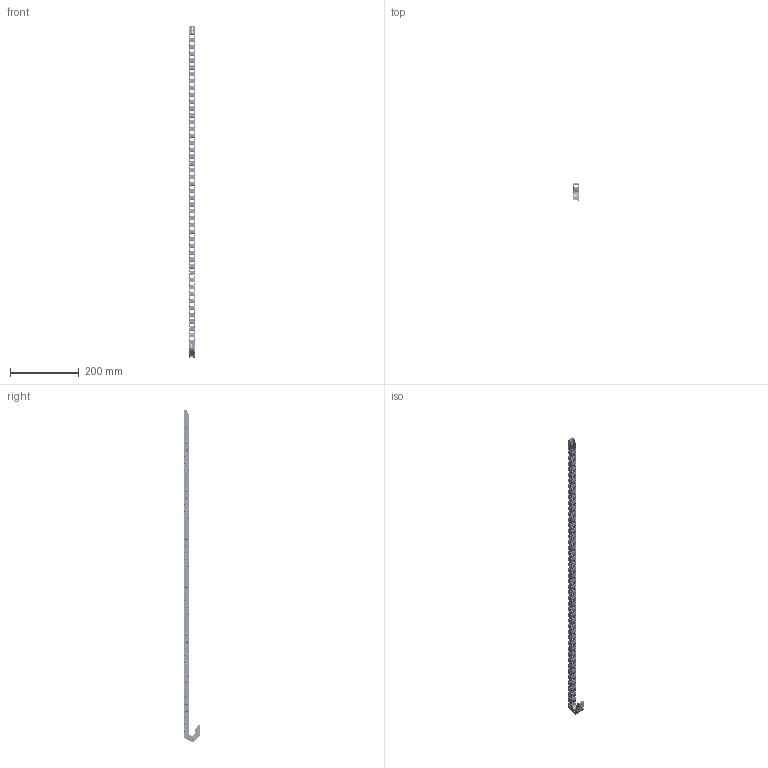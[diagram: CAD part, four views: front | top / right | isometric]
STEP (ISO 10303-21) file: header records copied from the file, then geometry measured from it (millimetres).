
FILE_DESCRIPTION(/* description */ (''),/* implementation_level */ '2;1');
FILE_NAME(/* name */ 'QSBK10X10R18.stp',/* time_stamp */ '2022-11-14T15:29:07+08:00',/* author */ (''),/* organization */ (''),/* preprocessor_version */ 'ST-DEVELOPER v16',/* originating_system */ 'SIEMENS PLM Software NX 10.0',/* authorisation */ '');
FILE_SCHEMA (('CONFIG_CONTROL_DESIGN'));
Products named in the file (1): QSBK10X10R18-20J_stp
Bounding box: 19 x 49.55 x 968.76 mm (x, y, z)
Volume: 111366 mm3; surface area: 144997.1 mm2
Topology: 50 solids, 50 shells, 7051 faces, 18265 edges, 11446 vertices
Faces by surface type: plane 2800, cylinder 2747, torus 799, bspline 673, sphere 24, cone 8
Full cylindrical faces by diameter (mm): 3 x50, 5.5 x48, 6.137 x98
Entity records: 248343 total; most frequent: CARTESIAN_POINT 77689, DIRECTION 36201, ORIENTED_EDGE 35714, EDGE_CURVE 17857, AXIS2_PLACEMENT_3D 13383, VERTEX_POINT 11250, LINE 9435, VECTOR 9435
